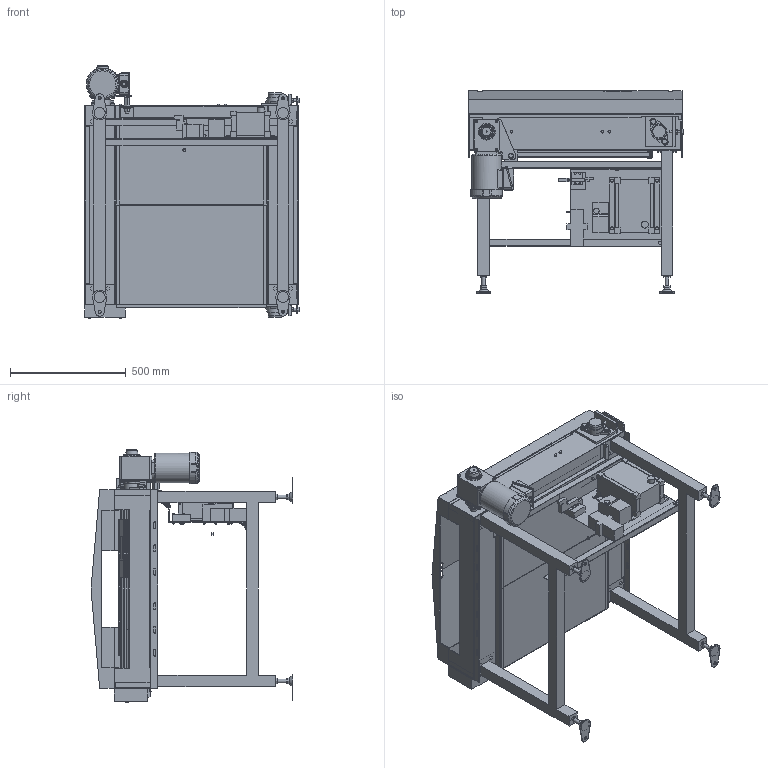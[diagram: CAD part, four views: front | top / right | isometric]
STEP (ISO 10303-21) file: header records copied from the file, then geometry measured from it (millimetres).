
FILE_DESCRIPTION( (''), '2;1');
FILE_NAME ('WEB-SLS-H-340-2-250-350-L-IVH-7.5.stp','2026-08-20T08:46:22',(''),(''),'spGate 21.9.5 (****-****-****-****)','','');
FILE_SCHEMA (('AUTOMOTIVE_DESIGN'));
Length unit declared in the file: millimetre
Products named in the file (89): WEB-SLS-H-340-2-250-350-L-IVH-7.5; TEMP_X_T-prt0; TEMP_X_T-prt1; TEMP_X_T-prt2; TEMP_X_T-prt3; TEMP_X_T-prt4; TEMP_X_T-prt5; TEMP_X_T-prt6; TEMP_X_T-prt7; TEMP_X_T-prt8; TEMP_X_T-prt9; TEMP_X_T-prt10; TEMP_X_T-prt11; TEMP_X_T-prt12; TEMP_X_T-prt13; TEMP_X_T-prt14; TEMP_X_T-prt15; TEMP_X_T-prt16; TEMP_X_T-prt17; TEMP_X_T-prt18; TEMP_X_T-prt19; TEMP_X_T-prt20; TEMP_X_T-prt21; TEMP_X_T-prt22; TEMP_X_T-prt23; TEMP_X_T-prt24; TEMP_X_T-prt25; TEMP_X_T-prt26; TEMP_X_T-prt27; TEMP_X_T-prt28; TEMP_X_T-prt29; TEMP_X_T-prt30; TEMP_X_T-prt31; TEMP_X_T-prt32; TEMP_X_T-prt33; TEMP_X_T-prt34; TEMP_X_T-prt35; TEMP_X_T-prt36; TEMP_X_T-prt37; TEMP_X_T-prt38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
Assembly tree (88 placements, depth 2):
  WEB-SLS-H-340-2-250-350-L-IVH-7.5
    TEMP_X_T-prt0
    TEMP_X_T-prt1
    TEMP_X_T-prt2
    TEMP_X_T-prt3
    TEMP_X_T-prt4
    TEMP_X_T-prt5
    TEMP_X_T-prt6
    TEMP_X_T-prt7
    TEMP_X_T-prt8
    TEMP_X_T-prt9
    TEMP_X_T-prt10
    TEMP_X_T-prt11
    TEMP_X_T-prt12
    TEMP_X_T-prt13
    TEMP_X_T-prt14
    TEMP_X_T-prt15
    TEMP_X_T-prt16
    TEMP_X_T-prt17
    TEMP_X_T-prt18
    TEMP_X_T-prt19
    TEMP_X_T-prt20
    TEMP_X_T-prt21
    TEMP_X_T-prt22
    TEMP_X_T-prt23
    TEMP_X_T-prt24
    TEMP_X_T-prt25
    TEMP_X_T-prt26
    TEMP_X_T-prt27
    TEMP_X_T-prt28
    TEMP_X_T-prt29
    TEMP_X_T-prt30
    TEMP_X_T-prt31
    TEMP_X_T-prt32
    TEMP_X_T-prt33
    TEMP_X_T-prt34
    TEMP_X_T-prt35
    TEMP_X_T-prt36
    TEMP_X_T-prt37
    TEMP_X_T-prt38
    TEMP_X_T-prt39
    TEMP_X_T-prt40
    TEMP_X_T-prt41
    TEMP_X_T-prt42
    TEMP_X_T-prt43
    TEMP_X_T-prt44
    TEMP_X_T-prt45
    TEMP_X_T-prt46
    TEMP_X_T-prt47
    TEMP_X_T-prt48
    TEMP_X_T-prt49
    TEMP_X_T-prt50
    TEMP_X_T-prt51
    TEMP_X_T-prt52
    TEMP_X_T-prt53
    TEMP_X_T-prt54
    TEMP_X_T-prt55
    TEMP_X_T-prt56
    TEMP_X_T-prt57
    TEMP_X_T-prt58
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Bounding box: 926 x 870.6 x 1089.5 mm (x, y, z)
Volume: 53278557.2 mm3; surface area: 10976772.2 mm2
Topology: 88 solids, 88 shells, 2675 faces, 6862 edges, 4520 vertices
Faces by surface type: plane 2046, cylinder 510, bspline 115, sphere 4
Full cylindrical faces by diameter (mm): 4 x14, 4.15 x1, 5 x4, 6 x15, 8 x6, 8.376 x4, 8.5 x6, 9 x4, 9.2 x5, 10 x1, 10.5 x4, 11 x4, 11.8 x4, 12 x2, 12.2 x18, 12.5 x21, 13 x8, 14 x8, 15.4 x1, 16 x16, 18 x1, 20 x1, 21 x6, 22.2 x1, 23 x1, 24 x1, 25 x1, 28 x1, 30 x1, 30.5 x1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
Entity records: 141001 total; most frequent: CARTESIAN_POINT 17682, ORIENTED_EDGE 13716, DIRECTION 13394, COLOUR_RGB 9621, PRESENTATION_STYLE_ASSIGNMENT 9621, STYLED_ITEM 9621, EDGE_CURVE 6858, DRAUGHTING_PRE_DEFINED_CURVE_FONT 6858
